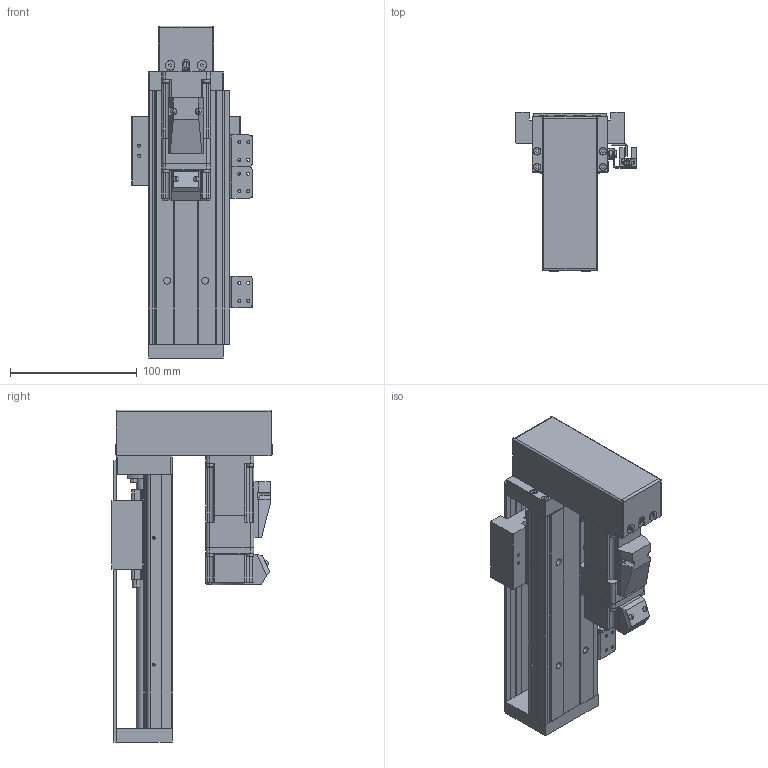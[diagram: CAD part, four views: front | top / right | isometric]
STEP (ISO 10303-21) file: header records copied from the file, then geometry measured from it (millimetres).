
FILE_DESCRIPTION (( 'STEP AP203' ), '1' );
FILE_NAME ('KH60D10C-200A1-H2MCS1.STEP', '2022-06-08T09:35:31', ( '' ), ( '' ), 'SwSTEP 2.0', 'SolidWorks 2016', '' );
FILE_SCHEMA (( 'CONFIG_CONTROL_DESIGN' ));
Length unit declared in the file: millimetre
Products named in the file (71): 囀鞠褒す埴芛蹟隊M3℅5; KK60-02-02; KH86-08-SX674; PM-Y65; KK60-08-01; 鞠褒蹟譫M3; 内六角圆柱头螺钉M3×18; 216々湍; 晦埴芛M3X6蹟隊; KK60-02-04; KH60-500; 侂狟萇儂P10B; 錨璃2; KK60-04-07; KH86-08-(SX674); 囀鞠褒麥芛蹟隊M3x5; KH60-02-0000-M; KH60D10C-200A1-H2MCS1; 綴釱; KK60-02-01-H0_KK60-02-01-H0&H1; KK60-02-03; KK60-01-02-XXXX_KK60-01-02-150; 蛌諉啣; 内六角圆柱头螺钉M3×10; KK60-01-02-XXXX; KK60-02-01-H0; B-KK60-A1-F0C
Assembly tree (46 placements, depth 3):
  囀鞠褒す埴芛蹟隊M3℅5
  PM-Y65
  囀鞠褒す埴芛蹟隊M3℅5
  鞠褒蹟譫M3
  内六角圆柱头螺钉M3×18
Bounding box: 95.4 x 126.3 x 262 mm (x, y, z)
Volume: 593411.4 mm3; surface area: 226207.8 mm2
Topology: 48 solids, 48 shells, 2732 faces, 7084 edges, 4533 vertices
Faces by surface type: plane 1419, cylinder 632, cone 319, bspline 280, torus 70, sphere 12
Entity records: 70014 total; most frequent: CARTESIAN_POINT 16054, ORIENTED_EDGE 10276, DIRECTION 9015, EDGE_CURVE 5138, VERTEX_POINT 3367, LINE 3275, VECTOR 3275, AXIS2_PLACEMENT_3D 2870
